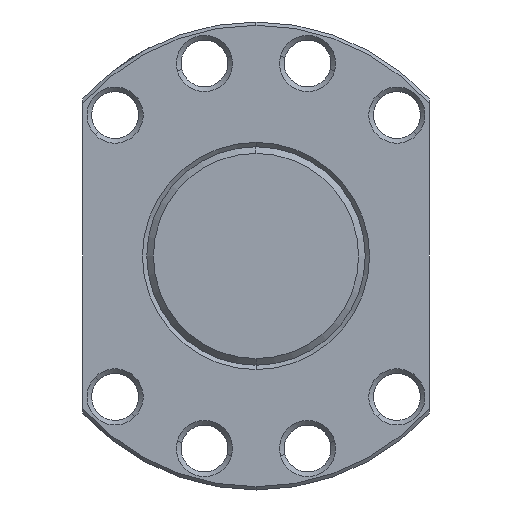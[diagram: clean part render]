
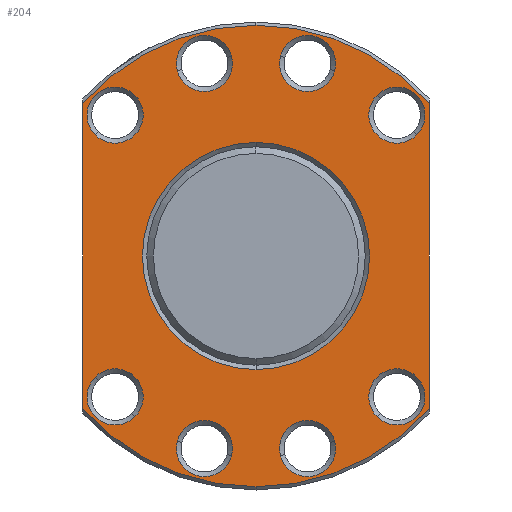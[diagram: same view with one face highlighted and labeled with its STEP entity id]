
A CAD part, left-side view. The second image highlights one B-rep face of the part: STEP entity #204.
In plain terms, the highlighted planar face has unit normal (-1, 0, 0).
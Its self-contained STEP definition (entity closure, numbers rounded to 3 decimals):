
#204=ADVANCED_FACE('',(#386,#387,#388,#389,#390,#391,#392,#393,#394,#395),#396,.T.);
#386=FACE_BOUND('',#587,.T.);
#387=FACE_OUTER_BOUND('',#588,.T.);
#388=FACE_BOUND('',#589,.T.);
#389=FACE_BOUND('',#590,.T.);
#390=FACE_BOUND('',#591,.T.);
#391=FACE_BOUND('',#592,.T.);
#392=FACE_BOUND('',#593,.T.);
#393=FACE_BOUND('',#594,.T.);
#394=FACE_BOUND('',#595,.T.);
#395=FACE_BOUND('',#596,.T.);
#396=PLANE('',#597);
#587=EDGE_LOOP('',(#1207,#1208));
#588=EDGE_LOOP('',(#1209,#1210,#1211,#1212,#1213,#1214));
#589=EDGE_LOOP('',(#1215,#1216));
#590=EDGE_LOOP('',(#1217,#1218));
#591=EDGE_LOOP('',(#1219,#1220));
#592=EDGE_LOOP('',(#1221,#1222));
#593=EDGE_LOOP('',(#1223,#1224));
#594=EDGE_LOOP('',(#1225,#1226));
#595=EDGE_LOOP('',(#1227,#1228));
#596=EDGE_LOOP('',(#1229,#1230));
#597=AXIS2_PLACEMENT_3D('',#1231,#1232,#1233);
#1207=ORIENTED_EDGE('',*,*,#1436,.T.);
#1208=ORIENTED_EDGE('',*,*,#1416,.T.);
#1209=ORIENTED_EDGE('',*,*,#1437,.T.);
#1210=ORIENTED_EDGE('',*,*,#1485,.F.);
#1211=ORIENTED_EDGE('',*,*,#1324,.F.);
#1212=ORIENTED_EDGE('',*,*,#1460,.T.);
#1213=ORIENTED_EDGE('',*,*,#1406,.F.);
#1214=ORIENTED_EDGE('',*,*,#1459,.F.);
#1215=ORIENTED_EDGE('',*,*,#1463,.T.);
#1216=ORIENTED_EDGE('',*,*,#1396,.T.);
#1217=ORIENTED_EDGE('',*,*,#1466,.T.);
#1218=ORIENTED_EDGE('',*,*,#1386,.T.);
#1219=ORIENTED_EDGE('',*,*,#1469,.T.);
#1220=ORIENTED_EDGE('',*,*,#1376,.T.);
#1221=ORIENTED_EDGE('',*,*,#1472,.T.);
#1222=ORIENTED_EDGE('',*,*,#1366,.T.);
#1223=ORIENTED_EDGE('',*,*,#1475,.T.);
#1224=ORIENTED_EDGE('',*,*,#1356,.T.);
#1225=ORIENTED_EDGE('',*,*,#1478,.T.);
#1226=ORIENTED_EDGE('',*,*,#1346,.T.);
#1227=ORIENTED_EDGE('',*,*,#1481,.T.);
#1228=ORIENTED_EDGE('',*,*,#1336,.T.);
#1229=ORIENTED_EDGE('',*,*,#1484,.T.);
#1230=ORIENTED_EDGE('',*,*,#1326,.T.);
#1231=CARTESIAN_POINT('',(25.0,0.0,33.28));
#1232=DIRECTION('',(-1.0,0.0,0.));
#1233=DIRECTION('',(0.,0.0,-1.0));
#1324=EDGE_CURVE('',#1550,#1548,#1552,.T.);
#1326=EDGE_CURVE('',#1556,#1553,#1557,.T.);
#1336=EDGE_CURVE('',#1574,#1571,#1575,.T.);
#1346=EDGE_CURVE('',#1592,#1589,#1593,.T.);
#1356=EDGE_CURVE('',#1610,#1607,#1611,.T.);
#1366=EDGE_CURVE('',#1628,#1625,#1629,.T.);
#1376=EDGE_CURVE('',#1646,#1643,#1647,.T.);
#1386=EDGE_CURVE('',#1664,#1661,#1665,.T.);
#1396=EDGE_CURVE('',#1682,#1679,#1683,.T.);
#1406=EDGE_CURVE('',#1697,#1700,#1701,.T.);
#1416=EDGE_CURVE('',#1718,#1715,#1719,.T.);
#1436=EDGE_CURVE('',#1715,#1718,#1749,.T.);
#1437=EDGE_CURVE('',#1750,#1751,#1752,.T.);
#1459=EDGE_CURVE('',#1750,#1697,#1780,.T.);
#1460=EDGE_CURVE('',#1550,#1700,#1781,.T.);
#1463=EDGE_CURVE('',#1679,#1682,#1784,.T.);
#1466=EDGE_CURVE('',#1661,#1664,#1787,.T.);
#1469=EDGE_CURVE('',#1643,#1646,#1790,.T.);
#1472=EDGE_CURVE('',#1625,#1628,#1793,.T.);
#1475=EDGE_CURVE('',#1607,#1610,#1796,.T.);
#1478=EDGE_CURVE('',#1589,#1592,#1799,.T.);
#1481=EDGE_CURVE('',#1571,#1574,#1802,.T.);
#1484=EDGE_CURVE('',#1553,#1556,#1805,.T.);
#1485=EDGE_CURVE('',#1548,#1751,#1806,.T.);
#1548=VERTEX_POINT('',#1893);
#1550=VERTEX_POINT('',#1896);
#1552=CIRCLE('',#1907,66.56);
#1553=VERTEX_POINT('',#1908);
#1556=VERTEX_POINT('',#1912);
#1557=CIRCLE('',#1913,8.1);
#1571=VERTEX_POINT('',#1932);
#1574=VERTEX_POINT('',#1936);
#1575=CIRCLE('',#1937,8.1);
#1589=VERTEX_POINT('',#1956);
#1592=VERTEX_POINT('',#1960);
#1593=CIRCLE('',#1961,8.1);
#1607=VERTEX_POINT('',#1980);
#1610=VERTEX_POINT('',#1984);
#1611=CIRCLE('',#1985,8.1);
#1625=VERTEX_POINT('',#2004);
#1628=VERTEX_POINT('',#2008);
#1629=CIRCLE('',#2009,8.1);
#1643=VERTEX_POINT('',#2028);
#1646=VERTEX_POINT('',#2032);
#1647=CIRCLE('',#2033,8.1);
#1661=VERTEX_POINT('',#2052);
#1664=VERTEX_POINT('',#2056);
#1665=CIRCLE('',#2057,8.1);
#1679=VERTEX_POINT('',#2076);
#1682=VERTEX_POINT('',#2080);
#1683=CIRCLE('',#2081,8.1);
#1697=VERTEX_POINT('',#2100);
#1700=VERTEX_POINT('',#2104);
#1701=CIRCLE('',#2105,66.56);
#1715=VERTEX_POINT('',#2140);
#1718=VERTEX_POINT('',#2144);
#1719=CIRCLE('',#2145,32.76);
#1749=CIRCLE('',#2251,32.76);
#1750=VERTEX_POINT('',#2252);
#1751=VERTEX_POINT('',#2253);
#1752=LINE('',#2254,#2255);
#1780=CIRCLE('',#2323,66.56);
#1781=LINE('',#2324,#2325);
#1784=CIRCLE('',#2328,8.1);
#1787=CIRCLE('',#2331,8.1);
#1790=CIRCLE('',#2334,8.1);
#1793=CIRCLE('',#2337,8.1);
#1796=CIRCLE('',#2340,8.1);
#1799=CIRCLE('',#2343,8.1);
#1802=CIRCLE('',#2346,8.1);
#1805=CIRCLE('',#2349,8.1);
#1806=CIRCLE('',#2350,66.56);
#1893=CARTESIAN_POINT('',(25.0,0.,-66.56));
#1896=CARTESIAN_POINT('',(25.0,-50.0,-43.934));
#1907=AXIS2_PLACEMENT_3D('',#2421,#2422,#2423);
#1908=CARTESIAN_POINT('',(25.0,-34.931,46.386));
#1912=CARTESIAN_POINT('',(25.0,-46.386,34.931));
#1913=AXIS2_PLACEMENT_3D('',#2425,#2426,#2427);
#1932=CARTESIAN_POINT('',(25.0,-7.058,57.637));
#1936=CARTESIAN_POINT('',(25.0,-22.706,53.444));
#1937=AXIS2_PLACEMENT_3D('',#2443,#2444,#2445);
#1956=CARTESIAN_POINT('',(25.0,22.706,53.444));
#1960=CARTESIAN_POINT('',(25.0,7.058,57.637));
#1961=AXIS2_PLACEMENT_3D('',#2461,#2462,#2463);
#1980=CARTESIAN_POINT('',(25.0,46.386,34.931));
#1984=CARTESIAN_POINT('',(25.0,34.931,46.386));
#1985=AXIS2_PLACEMENT_3D('',#2479,#2480,#2481);
#2004=CARTESIAN_POINT('',(25.0,34.931,-46.386));
#2008=CARTESIAN_POINT('',(25.0,46.386,-34.931));
#2009=AXIS2_PLACEMENT_3D('',#2497,#2498,#2499);
#2028=CARTESIAN_POINT('',(25.0,7.058,-57.637));
#2032=CARTESIAN_POINT('',(25.0,22.706,-53.444));
#2033=AXIS2_PLACEMENT_3D('',#2515,#2516,#2517);
#2052=CARTESIAN_POINT('',(25.0,-22.706,-53.444));
#2056=CARTESIAN_POINT('',(25.0,-7.058,-57.637));
#2057=AXIS2_PLACEMENT_3D('',#2533,#2534,#2535);
#2076=CARTESIAN_POINT('',(25.0,-46.386,-34.931));
#2080=CARTESIAN_POINT('',(25.0,-34.931,-46.386));
#2081=AXIS2_PLACEMENT_3D('',#2551,#2552,#2553);
#2100=CARTESIAN_POINT('',(25.0,0.,66.56));
#2104=CARTESIAN_POINT('',(25.0,-50.0,43.934));
#2105=AXIS2_PLACEMENT_3D('',#2569,#2570,#2571);
#2140=CARTESIAN_POINT('',(25.0,0.0,32.76));
#2144=CARTESIAN_POINT('',(25.0,0.,-32.76));
#2145=AXIS2_PLACEMENT_3D('',#2585,#2586,#2587);
#2251=AXIS2_PLACEMENT_3D('',#2621,#2622,#2623);
#2252=CARTESIAN_POINT('',(25.0,50.0,43.934));
#2253=CARTESIAN_POINT('',(25.0,50.0,-43.934));
#2254=CARTESIAN_POINT('',(25.0,50.0,16.64));
#2255=VECTOR('',#2624,1.0);
#2323=AXIS2_PLACEMENT_3D('',#2668,#2669,#2670);
#2324=CARTESIAN_POINT('',(25.0,-50.0,16.64));
#2325=VECTOR('',#2671,1.0);
#2328=AXIS2_PLACEMENT_3D('',#2678,#2679,#2680);
#2331=AXIS2_PLACEMENT_3D('',#2687,#2688,#2689);
#2334=AXIS2_PLACEMENT_3D('',#2696,#2697,#2698);
#2337=AXIS2_PLACEMENT_3D('',#2705,#2706,#2707);
#2340=AXIS2_PLACEMENT_3D('',#2714,#2715,#2716);
#2343=AXIS2_PLACEMENT_3D('',#2723,#2724,#2725);
#2346=AXIS2_PLACEMENT_3D('',#2732,#2733,#2734);
#2349=AXIS2_PLACEMENT_3D('',#2741,#2742,#2743);
#2350=AXIS2_PLACEMENT_3D('',#2744,#2745,#2746);
#2421=CARTESIAN_POINT('',(25.0,0.0,0.0));
#2422=DIRECTION('',(1.0,0.0,-0.0));
#2423=DIRECTION('',(0.0,0.0,1.0));
#2425=CARTESIAN_POINT('',(25.0,-40.659,40.659));
#2426=DIRECTION('',(1.0,0.0,0.));
#2427=DIRECTION('',(0.,0.707,0.707));
#2443=CARTESIAN_POINT('',(25.0,-14.882,55.541));
#2444=DIRECTION('',(1.0,0.0,0.));
#2445=DIRECTION('',(0.,0.966,0.259));
#2461=CARTESIAN_POINT('',(25.0,14.882,55.541));
#2462=DIRECTION('',(1.0,0.0,0.));
#2463=DIRECTION('',(0.,0.966,-0.259));
#2479=CARTESIAN_POINT('',(25.0,40.659,40.659));
#2480=DIRECTION('',(1.0,0.0,0.));
#2481=DIRECTION('',(0.,0.707,-0.707));
#2497=CARTESIAN_POINT('',(25.0,40.659,-40.659));
#2498=DIRECTION('',(1.0,0.0,0.));
#2499=DIRECTION('',(0.,-0.707,-0.707));
#2515=CARTESIAN_POINT('',(25.0,14.882,-55.541));
#2516=DIRECTION('',(1.0,0.0,0.));
#2517=DIRECTION('',(0.,-0.966,-0.259));
#2533=CARTESIAN_POINT('',(25.0,-14.882,-55.541));
#2534=DIRECTION('',(1.0,0.0,0.));
#2535=DIRECTION('',(0.,-0.966,0.259));
#2551=CARTESIAN_POINT('',(25.0,-40.659,-40.659));
#2552=DIRECTION('',(1.0,0.0,0.));
#2553=DIRECTION('',(0.,-0.707,0.707));
#2569=CARTESIAN_POINT('',(25.0,0.0,0.0));
#2570=DIRECTION('',(1.0,0.0,-0.0));
#2571=DIRECTION('',(0.0,0.0,1.0));
#2585=CARTESIAN_POINT('',(25.0,0.0,0.0));
#2586=DIRECTION('',(1.0,0.0,0.));
#2587=DIRECTION('',(0.,0.0,1.0));
#2621=CARTESIAN_POINT('',(25.0,0.0,0.0));
#2622=DIRECTION('',(1.0,0.0,0.));
#2623=DIRECTION('',(0.,0.0,1.0));
#2624=DIRECTION('',(0.,0.0,-1.0));
#2668=CARTESIAN_POINT('',(25.0,0.0,0.0));
#2669=DIRECTION('',(1.0,0.0,-0.0));
#2670=DIRECTION('',(0.0,0.0,1.0));
#2671=DIRECTION('',(0.,0.0,1.0));
#2678=CARTESIAN_POINT('',(25.0,-40.659,-40.659));
#2679=DIRECTION('',(1.0,0.0,0.));
#2680=DIRECTION('',(0.,-0.707,0.707));
#2687=CARTESIAN_POINT('',(25.0,-14.882,-55.541));
#2688=DIRECTION('',(1.0,0.0,0.));
#2689=DIRECTION('',(0.,-0.966,0.259));
#2696=CARTESIAN_POINT('',(25.0,14.882,-55.541));
#2697=DIRECTION('',(1.0,0.0,0.));
#2698=DIRECTION('',(0.,-0.966,-0.259));
#2705=CARTESIAN_POINT('',(25.0,40.659,-40.659));
#2706=DIRECTION('',(1.0,0.0,0.));
#2707=DIRECTION('',(0.,-0.707,-0.707));
#2714=CARTESIAN_POINT('',(25.0,40.659,40.659));
#2715=DIRECTION('',(1.0,0.0,0.));
#2716=DIRECTION('',(0.,0.707,-0.707));
#2723=CARTESIAN_POINT('',(25.0,14.882,55.541));
#2724=DIRECTION('',(1.0,0.0,0.));
#2725=DIRECTION('',(0.,0.966,-0.259));
#2732=CARTESIAN_POINT('',(25.0,-14.882,55.541));
#2733=DIRECTION('',(1.0,0.0,0.));
#2734=DIRECTION('',(0.,0.966,0.259));
#2741=CARTESIAN_POINT('',(25.0,-40.659,40.659));
#2742=DIRECTION('',(1.0,0.0,0.));
#2743=DIRECTION('',(0.,0.707,0.707));
#2744=CARTESIAN_POINT('',(25.0,0.0,0.0));
#2745=DIRECTION('',(1.0,0.0,-0.0));
#2746=DIRECTION('',(0.0,0.0,1.0));
